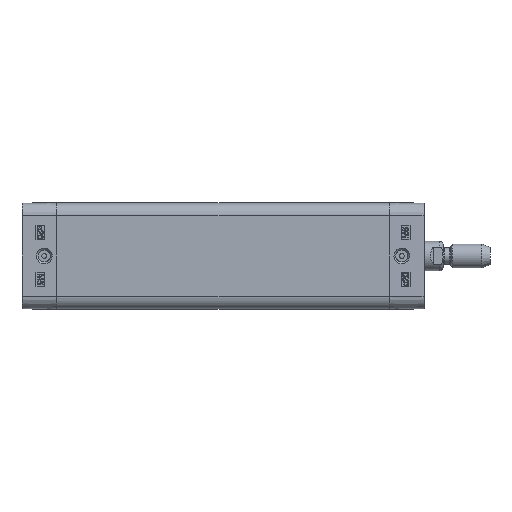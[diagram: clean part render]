
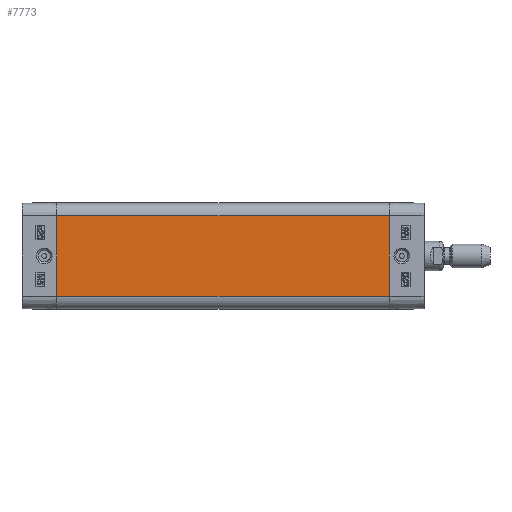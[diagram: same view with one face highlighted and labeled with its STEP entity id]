
A CAD part, left-side view. The second image highlights one B-rep face of the part: STEP entity #7773.
In plain terms, the highlighted planar face has unit normal (-1, 0, 0).
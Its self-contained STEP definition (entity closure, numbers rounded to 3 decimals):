
#6294=CARTESIAN_POINT('',(-18.15,-113.5,13.65));
#6295=VERTEX_POINT('',#6294);
#6302=CARTESIAN_POINT('',(-18.15,-113.5,-13.65));
#6303=VERTEX_POINT('',#6302);
#6304=CARTESIAN_POINT('',(-18.15,-113.5,-13.65));
#6305=DIRECTION('',(0.0,0.0,1.0));
#6306=VECTOR('',#6305,27.3);
#6307=LINE('',#6304,#6306);
#6308=EDGE_CURVE('',#6303,#6295,#6307,.T.);
#7731=CARTESIAN_POINT('',(-18.15,0.0,-13.65));
#7732=VERTEX_POINT('',#7731);
#7733=CARTESIAN_POINT('',(-18.15,0.0,-13.65));
#7734=DIRECTION('',(0.0,-1.0,0.0));
#7735=VECTOR('',#7734,113.5);
#7736=LINE('',#7733,#7735);
#7737=EDGE_CURVE('',#7732,#6303,#7736,.T.);
#7750=CARTESIAN_POINT('',(-18.15,0.0,-13.65));
#7751=DIRECTION('',(-1.0,0.0,0.0));
#7752=DIRECTION('',(0.0,0.0,1.0));
#7753=AXIS2_PLACEMENT_3D('',#7750,#7751,#7752);
#7754=PLANE('',#7753);
#7755=ORIENTED_EDGE('',*,*,#6308,.T.);
#7756=CARTESIAN_POINT('',(-18.15,0.0,13.65));
#7757=VERTEX_POINT('',#7756);
#7758=CARTESIAN_POINT('',(-18.15,0.0,13.65));
#7759=DIRECTION('',(0.0,-1.0,0.0));
#7760=VECTOR('',#7759,113.5);
#7761=LINE('',#7758,#7760);
#7762=EDGE_CURVE('',#7757,#6295,#7761,.T.);
#7763=ORIENTED_EDGE('',*,*,#7762,.F.);
#7764=CARTESIAN_POINT('',(-18.15,0.0,-13.65));
#7765=DIRECTION('',(0.0,0.0,1.0));
#7766=VECTOR('',#7765,27.3);
#7767=LINE('',#7764,#7766);
#7768=EDGE_CURVE('',#7732,#7757,#7767,.T.);
#7769=ORIENTED_EDGE('',*,*,#7768,.F.);
#7770=ORIENTED_EDGE('',*,*,#7737,.T.);
#7771=EDGE_LOOP('',(#7755,#7763,#7769,#7770));
#7772=FACE_OUTER_BOUND('',#7771,.T.);
#7773=ADVANCED_FACE('',(#7772),#7754,.T.);
